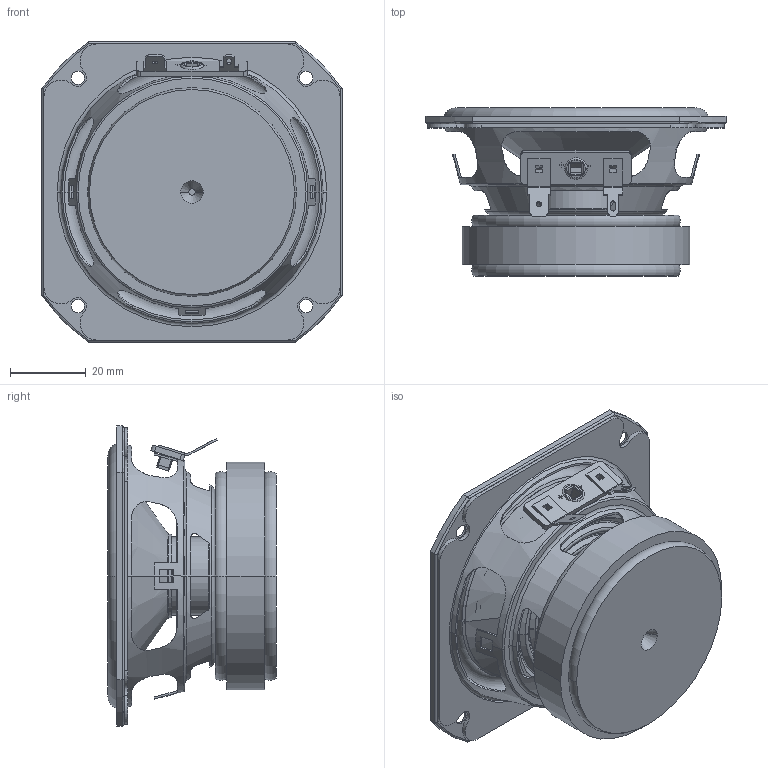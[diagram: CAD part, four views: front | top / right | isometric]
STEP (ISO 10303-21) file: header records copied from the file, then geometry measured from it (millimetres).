
FILE_DESCRIPTION((''),'2;1');
FILE_NAME('8L04_ASM','2023-09-23T13:42:01',('54257'),(''),'CREO PARAMETRIC BY PTC INC, 2020053','CREO PARAMETRIC BY PTC INC, 2020053','');
FILE_SCHEMA(('CONFIG_CONTROL_DESIGN','SHAPE_APPEARANCE_LAYERS_GROUPS'));
Length unit declared in the file: millimetre
Products named in the file (15): HF_8L0; HP_8L0; HM_8L0; HY_8L0; HV_8L0; HA_8L0; HC-1_8L0; HD_8L0; 1_0_0; 2_0_0; 3_0_0; 4_0_0; HT-01_ASM; HG; 8L04_ASM
Assembly tree (14 placements, depth 3):
  8L04_ASM
    HF_8L0
    HP_8L0
    HM_8L0
    HY_8L0
    HV_8L0
    HA_8L0
    HC-1_8L0
    HD_8L0
    HT-01_ASM
      1_0_0
      2_0_0
      3_0_0
      4_0_0
    HG
Bounding box: 79 x 44.25 x 79 mm (x, y, z)
Volume: 46970.8 mm3; surface area: 57568.8 mm2
Topology: 13 solids, 13 shells, 530 faces, 1300 edges, 802 vertices
Faces by surface type: plane 224, cylinder 146, torus 86, cone 70, sphere 4
Entity records: 24223 total; most frequent: CARTESIAN_POINT 3469, DIRECTION 2800, ORIENTED_EDGE 2592, PRESENTATION_STYLE_ASSIGNMENT 1839, STYLED_ITEM 1839, CURVE_STYLE 1296, EDGE_CURVE 1296, AXIS2_PLACEMENT_3D 1101
